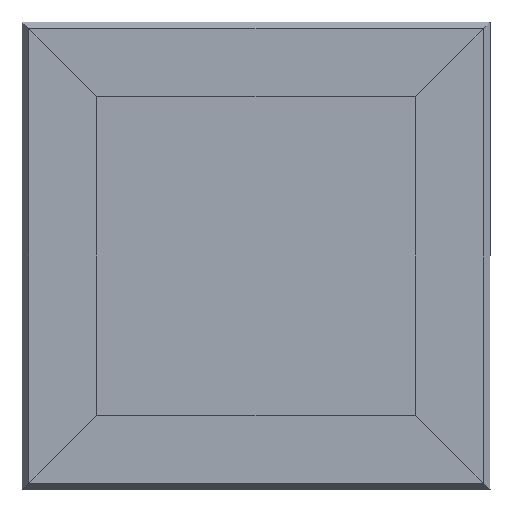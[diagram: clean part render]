
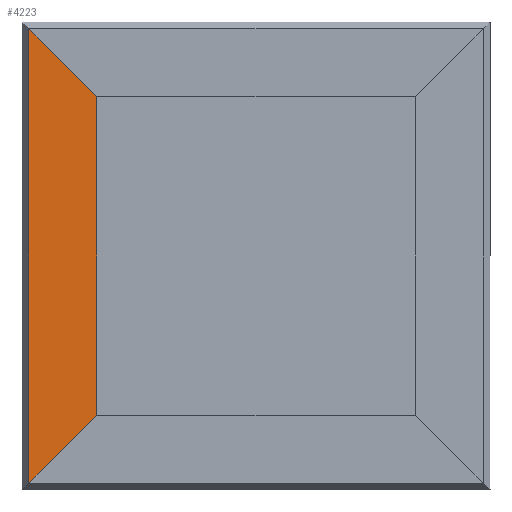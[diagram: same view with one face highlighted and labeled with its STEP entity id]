
A CAD part, front view. The second image highlights one B-rep face of the part: STEP entity #4223.
In plain terms, the highlighted planar face has unit normal (0, -1, 0).
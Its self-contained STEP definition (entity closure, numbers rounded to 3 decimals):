
#292 = CARTESIAN_POINT ( 'NONE',  ( -340., 0., 500. ) ) ;
#377 = VECTOR ( 'NONE', #780, 1000. ) ;
#403 = LINE ( 'NONE', #2439, #3953 ) ;
#439 = VERTEX_POINT ( 'NONE', #2468 ) ;
#665 = EDGE_CURVE ( 'NONE', #4714, #1141, #403, .T. ) ;
#780 = DIRECTION ( 'NONE',  ( 0.707, 0., -0.707 ) ) ;
#1013 = EDGE_CURVE ( 'NONE', #4714, #439, #2379, .T. ) ;
#1141 = VERTEX_POINT ( 'NONE', #1665 ) ;
#1195 = CARTESIAN_POINT ( 'NONE',  ( -340., 0., 500. ) ) ;
#1334 = ORIENTED_EDGE ( 'NONE', *, *, #665, .T. ) ;
#1611 = PLANE ( 'NONE',  #2709 ) ;
#1615 = EDGE_CURVE ( 'NONE', #439, #5020, #5038, .T. ) ;
#1665 = CARTESIAN_POINT ( 'NONE',  ( -485.296, 0., -485.296 ) ) ;
#1769 = VECTOR ( 'NONE', #2319, 1000. ) ;
#1922 = FACE_OUTER_BOUND ( 'NONE', #3958, .T. ) ;
#1973 = DIRECTION ( 'NONE',  ( 0., 0., -1. ) ) ;
#2065 = DIRECTION ( 'NONE',  ( -0.707, 0., -0.707 ) ) ;
#2319 = DIRECTION ( 'NONE',  ( 0., 0., -1. ) ) ;
#2379 = LINE ( 'NONE', #4696, #377 ) ;
#2382 = DIRECTION ( 'NONE',  ( 0., 1., 0. ) ) ;
#2439 = CARTESIAN_POINT ( 'NONE',  ( -485.296, 0., 500. ) ) ;
#2468 = CARTESIAN_POINT ( 'NONE',  ( -340., 0., 340. ) ) ;
#2709 = AXIS2_PLACEMENT_3D ( 'NONE', #1195, #2382, #3111 ) ;
#2781 = CARTESIAN_POINT ( 'NONE',  ( -485.296, 0., 485.296 ) ) ;
#2846 = ORIENTED_EDGE ( 'NONE', *, *, #1013, .F. ) ;
#3111 = DIRECTION ( 'NONE',  ( -1., 0., 0. ) ) ;
#3225 = VECTOR ( 'NONE', #2065, 1000. ) ;
#3274 = CARTESIAN_POINT ( 'NONE',  ( 80., 0., 80. ) ) ;
#3428 = CARTESIAN_POINT ( 'NONE',  ( -340., 0., -340. ) ) ;
#3734 = ORIENTED_EDGE ( 'NONE', *, *, #4844, .F. ) ;
#3953 = VECTOR ( 'NONE', #1973, 1000. ) ;
#3958 = EDGE_LOOP ( 'NONE', ( #3734, #4602, #2846, #1334 ) ) ;
#4223 = ADVANCED_FACE ( 'NONE', ( #1922 ), #1611, .F. ) ;
#4436 = LINE ( 'NONE', #3274, #3225 ) ;
#4602 = ORIENTED_EDGE ( 'NONE', *, *, #1615, .F. ) ;
#4696 = CARTESIAN_POINT ( 'NONE',  ( -420., 0., 420. ) ) ;
#4714 = VERTEX_POINT ( 'NONE', #2781 ) ;
#4844 = EDGE_CURVE ( 'NONE', #5020, #1141, #4436, .T. ) ;
#5020 = VERTEX_POINT ( 'NONE', #3428 ) ;
#5038 = LINE ( 'NONE', #292, #1769 ) ;
